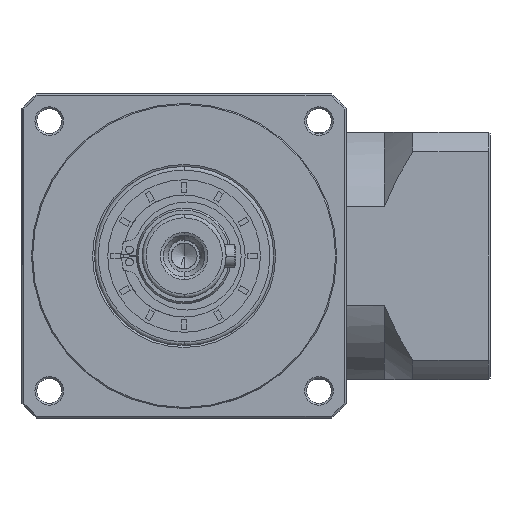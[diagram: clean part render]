
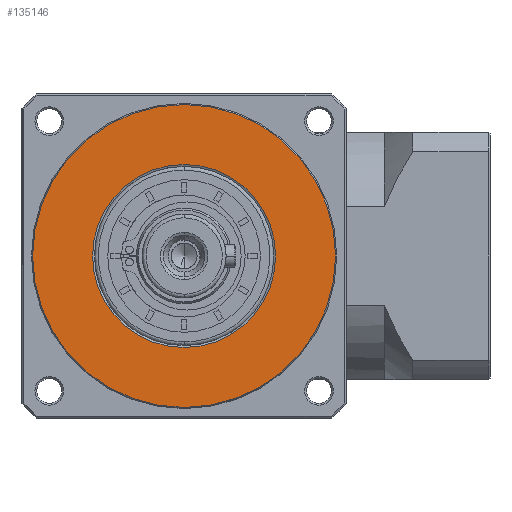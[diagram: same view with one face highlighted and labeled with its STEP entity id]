
A CAD part, left-side view. The second image highlights one B-rep face of the part: STEP entity #135146.
In plain terms, the highlighted planar face has unit normal (-1, 0, 0).
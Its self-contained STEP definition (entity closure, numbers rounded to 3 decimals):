
#1666 = AXIS2_PLACEMENT_3D ( 'NONE', #67816, #164242, #81678 ) ;
#3657 = EDGE_LOOP ( 'NONE', ( #125976, #87748 ) ) ;
#8133 = DIRECTION ( 'NONE',  ( 0., 1., 0. ) ) ;
#11352 = VERTEX_POINT ( 'NONE', #33424 ) ;
#14701 = VERTEX_POINT ( 'NONE', #163412 ) ;
#21517 = CARTESIAN_POINT ( 'NONE',  ( -137.102, -59.286, -107.407 ) ) ;
#33424 = CARTESIAN_POINT ( 'NONE',  ( -137.102, -19.575, -131.407 ) ) ;
#45239 = CIRCLE ( 'NONE', #83745, 24. ) ;
#46797 = AXIS2_PLACEMENT_3D ( 'NONE', #147308, #64692, #161148 ) ;
#48178 = CARTESIAN_POINT ( 'NONE',  ( -137.102, 20.136, -107.407 ) ) ;
#48911 = DIRECTION ( 'NONE',  ( 1., 0., 0. ) ) ;
#54277 = FACE_BOUND ( 'NONE', #153240, .T. ) ;
#61829 = VERTEX_POINT ( 'NONE', #21517 ) ;
#64692 = DIRECTION ( 'NONE',  ( -1., 0., 0. ) ) ;
#66245 = CIRCLE ( 'NONE', #1666, 24. ) ;
#67816 = CARTESIAN_POINT ( 'NONE',  ( -137.102, -19.575, -107.407 ) ) ;
#69267 = VERTEX_POINT ( 'NONE', #48178 ) ;
#78580 = CARTESIAN_POINT ( 'NONE',  ( -137.102, -19.575, -107.407 ) ) ;
#81613 = EDGE_CURVE ( 'NONE', #14701, #11352, #66245, .T. ) ;
#81678 = DIRECTION ( 'NONE',  ( 0., 0., -1. ) ) ;
#83745 = AXIS2_PLACEMENT_3D ( 'NONE', #78580, #175003, #92334 ) ;
#87748 = ORIENTED_EDGE ( 'NONE', *, *, #129188, .F. ) ;
#89495 = AXIS2_PLACEMENT_3D ( 'NONE', #131409, #48911, #145319 ) ;
#90572 = DIRECTION ( 'NONE',  ( 1., 0., 0. ) ) ;
#91750 = PLANE ( 'NONE',  #46797 ) ;
#92334 = DIRECTION ( 'NONE',  ( 0., 0., -1. ) ) ;
#102494 = EDGE_CURVE ( 'NONE', #11352, #14701, #45239, .T. ) ;
#116999 = AXIS2_PLACEMENT_3D ( 'NONE', #173209, #90572, #8133 ) ;
#123278 = FACE_OUTER_BOUND ( 'NONE', #3657, .T. ) ;
#125976 = ORIENTED_EDGE ( 'NONE', *, *, #165290, .F. ) ;
#129188 = EDGE_CURVE ( 'NONE', #61829, #69267, #140570, .T. ) ;
#131409 = CARTESIAN_POINT ( 'NONE',  ( -137.102, -19.575, -107.407 ) ) ;
#135146 = ADVANCED_FACE ( 'NONE', ( #123278, #54277 ), #91750, .T. ) ;
#140570 = CIRCLE ( 'NONE', #89495, 39.711 ) ;
#141310 = ORIENTED_EDGE ( 'NONE', *, *, #102494, .T. ) ;
#145319 = DIRECTION ( 'NONE',  ( 0., 1., 0. ) ) ;
#147015 = ORIENTED_EDGE ( 'NONE', *, *, #81613, .T. ) ;
#147308 = CARTESIAN_POINT ( 'NONE',  ( -137.102, -19.575, -107.407 ) ) ;
#153240 = EDGE_LOOP ( 'NONE', ( #141310, #147015 ) ) ;
#160259 = CIRCLE ( 'NONE', #116999, 39.711 ) ;
#161148 = DIRECTION ( 'NONE',  ( 0., 0., -1. ) ) ;
#163412 = CARTESIAN_POINT ( 'NONE',  ( -137.102, -19.575, -83.407 ) ) ;
#164242 = DIRECTION ( 'NONE',  ( 1., 0., 0. ) ) ;
#165290 = EDGE_CURVE ( 'NONE', #69267, #61829, #160259, .T. ) ;
#173209 = CARTESIAN_POINT ( 'NONE',  ( -137.102, -19.575, -107.407 ) ) ;
#175003 = DIRECTION ( 'NONE',  ( 1., 0., 0. ) ) ;
